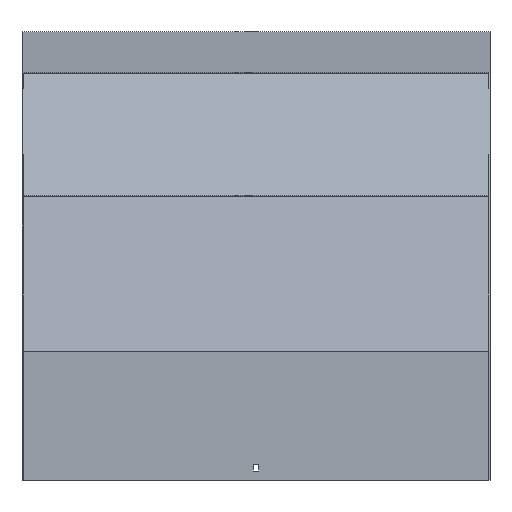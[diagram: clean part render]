
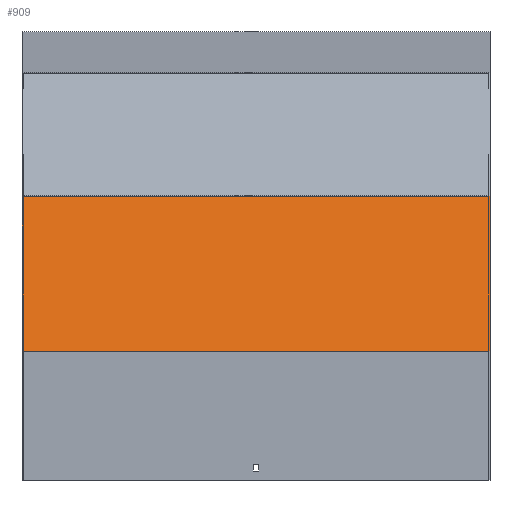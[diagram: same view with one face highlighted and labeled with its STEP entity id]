
A CAD part, top view. The second image highlights one B-rep face of the part: STEP entity #909.
In plain terms, the highlighted planar face has unit normal (0, 0.259, 0.966).
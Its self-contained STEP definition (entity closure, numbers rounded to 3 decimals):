
#21 = CARTESIAN_POINT ( 'NONE',  ( 301.5, -192.473, 525.472 ) ) ;
#44 = DIRECTION ( 'NONE',  ( 0., -0.966, 0.259 ) ) ;
#46 = VERTEX_POINT ( 'NONE', #461 ) ;
#147 = CARTESIAN_POINT ( 'NONE',  ( 301.5, -197.649, 526.859 ) ) ;
#158 = LINE ( 'NONE', #484, #845 ) ;
#185 = ORIENTED_EDGE ( 'NONE', *, *, #220, .F. ) ;
#187 = VERTEX_POINT ( 'NONE', #920 ) ;
#195 = CARTESIAN_POINT ( 'NONE',  ( 301.5, -197.649, 526.859 ) ) ;
#220 = EDGE_CURVE ( 'NONE', #431, #46, #1094, .T. ) ;
#295 = VERTEX_POINT ( 'NONE', #21 ) ;
#313 = VECTOR ( 'NONE', #485, 1000. ) ;
#431 = VERTEX_POINT ( 'NONE', #642 ) ;
#461 = CARTESIAN_POINT ( 'NONE',  ( -301.5, -392.412, 579.045 ) ) ;
#484 = CARTESIAN_POINT ( 'NONE',  ( -301.5, -197.649, 526.859 ) ) ;
#485 = DIRECTION ( 'NONE',  ( 0., -0.966, 0.259 ) ) ;
#490 = DIRECTION ( 'NONE',  ( -1., 0., 0. ) ) ;
#500 = CARTESIAN_POINT ( 'NONE',  ( 301.5, -392.412, 579.045 ) ) ;
#505 = ORIENTED_EDGE ( 'NONE', *, *, #1082, .T. ) ;
#581 = AXIS2_PLACEMENT_3D ( 'NONE', #195, #1030, #1011 ) ;
#587 = DIRECTION ( 'NONE',  ( -1., 0., 0. ) ) ;
#602 = VECTOR ( 'NONE', #587, 1000. ) ;
#611 = PLANE ( 'NONE',  #581 ) ;
#620 = ORIENTED_EDGE ( 'NONE', *, *, #671, .F. ) ;
#625 = EDGE_LOOP ( 'NONE', ( #677, #185, #620, #505 ) ) ;
#642 = CARTESIAN_POINT ( 'NONE',  ( 301.5, -392.412, 579.045 ) ) ;
#653 = CARTESIAN_POINT ( 'NONE',  ( 301.5, -192.473, 525.472 ) ) ;
#671 = EDGE_CURVE ( 'NONE', #295, #431, #904, .T. ) ;
#677 = ORIENTED_EDGE ( 'NONE', *, *, #681, .T. ) ;
#681 = EDGE_CURVE ( 'NONE', #187, #46, #158, .T. ) ;
#710 = VECTOR ( 'NONE', #490, 1000. ) ;
#821 = LINE ( 'NONE', #653, #710 ) ;
#845 = VECTOR ( 'NONE', #44, 1000. ) ;
#904 = LINE ( 'NONE', #147, #313 ) ;
#909 = ADVANCED_FACE ( 'NONE', ( #1039 ), #611, .F. ) ;
#920 = CARTESIAN_POINT ( 'NONE',  ( -301.5, -192.473, 525.472 ) ) ;
#1011 = DIRECTION ( 'NONE',  ( 0., 0.966, -0.259 ) ) ;
#1030 = DIRECTION ( 'NONE',  ( 0., -0.259, -0.966 ) ) ;
#1039 = FACE_OUTER_BOUND ( 'NONE', #625, .T. ) ;
#1082 = EDGE_CURVE ( 'NONE', #295, #187, #821, .T. ) ;
#1094 = LINE ( 'NONE', #500, #602 ) ;
